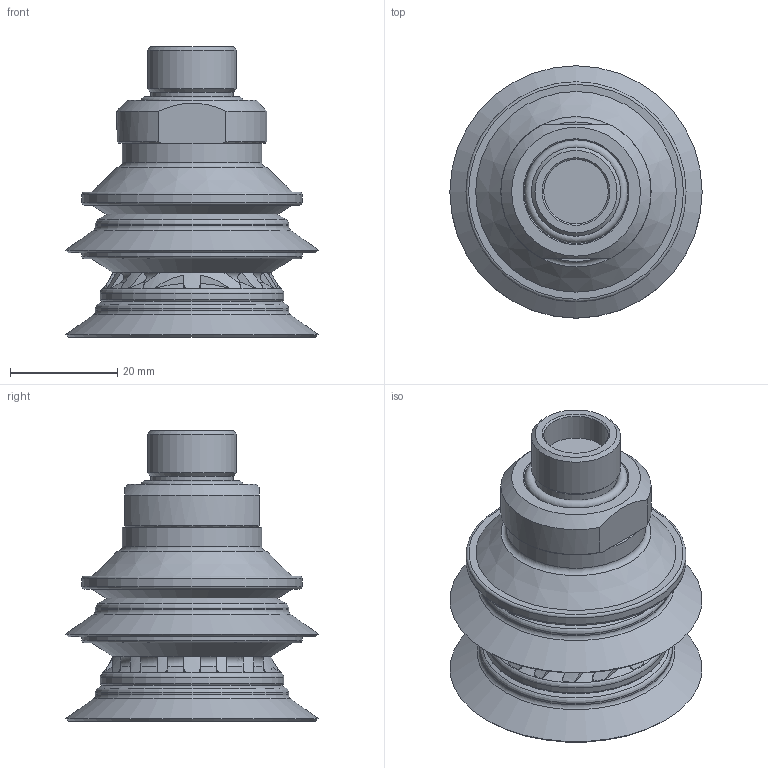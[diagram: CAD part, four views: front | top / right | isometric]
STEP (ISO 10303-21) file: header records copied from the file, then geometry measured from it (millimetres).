
FILE_DESCRIPTION( ( 'Unknown' ), '1' );
FILE_NAME( 'C:/Documents and Settings/Administrator/官帕 拳搁/Magic Cup (Dim)/B2.5/U TYPE/B2.5-40/B2.5-40-U45-N6-B-F2-38M.stp', 'Unknown', ( 'Unknown' ), ( 'Unknown' ), 'XStep 1.0', 'Unknown', ' ' );
FILE_SCHEMA( ( 'automotive_design' ) );
Length unit declared in the file: millimetre
Products named in the file (8): Assem1; Assem2; Assem3; B2.5-40; 40-38M(DIM); 38M-Oring(DIM); U45(DIM); 赤40 STOPPER 
Bounding box: 47 x 47 x 54.14 mm (x, y, z)
Volume: 68746.6 mm3; surface area: 58566.3 mm2
Topology: 15 solids, 15 shells, 1749 faces, 5106 edges, 3351 vertices
Faces by surface type: plane 1074, cylinder 375, cone 162, torus 138
Full cylindrical faces by diameter (mm): 12 x3, 15.3 x3, 16.6 x3, 19 x3, 19.3 x3, 21 x6, 21.5 x6, 22 x3, 24 x3, 24.831 x3, 26 x3, 27.821 x3, 32 x3, 34.2 x3, 36 x3, 41 x6
Entity records: 20333 total; most frequent: CARTESIAN_POINT 4739, ORIENTED_EDGE 3244, DIRECTION 2922, EDGE_CURVE 1622, VERTEX_POINT 1110, LINE 996, VECTOR 996, AXIS2_PLACEMENT_3D 963
